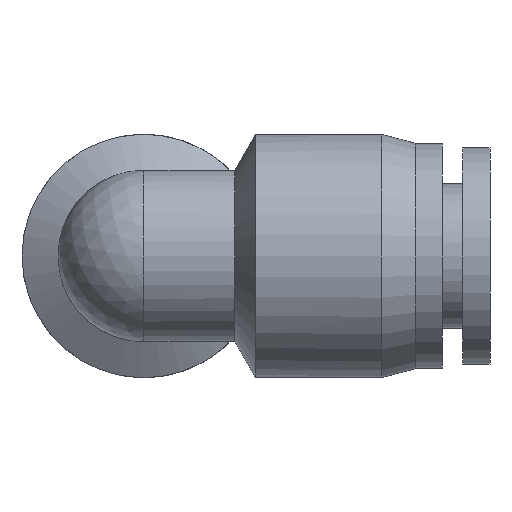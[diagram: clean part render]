
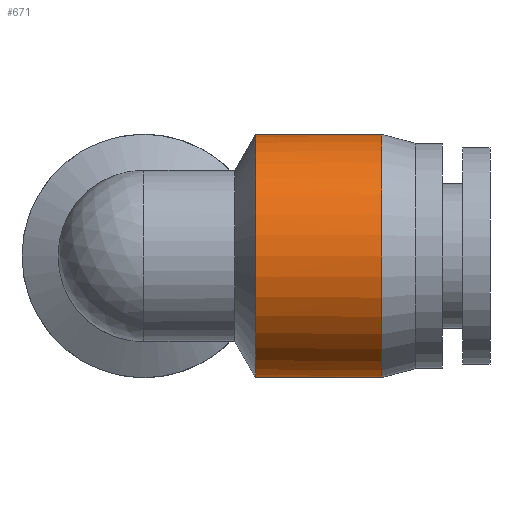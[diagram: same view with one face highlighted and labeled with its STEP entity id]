
A CAD part, left-side view. The second image highlights one B-rep face of the part: STEP entity #671.
In plain terms, the highlighted cylindrical face has radius 6.75 mm (diameter 13.5 mm), a full revolution.
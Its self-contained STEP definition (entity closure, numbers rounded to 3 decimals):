
#399=CARTESIAN_POINT('',(6.676,-6.676,1.0));
#400=VERTEX_POINT('',#399);
#409=CARTESIAN_POINT('',(6.676,-7.467,1.0));
#410=VERTEX_POINT('',#409);
#411=CARTESIAN_POINT('',(6.676,-7.467,1.0));
#412=DIRECTION('',(0.0,1.0,0.0));
#413=VECTOR('',#412,0.791);
#414=LINE('',#411,#413);
#415=EDGE_CURVE('',#410,#400,#414,.T.);
#433=CARTESIAN_POINT('',(6.676,-6.676,-1.0));
#434=VERTEX_POINT('',#433);
#441=CARTESIAN_POINT('',(6.676,-7.467,-1.0));
#442=VERTEX_POINT('',#441);
#449=CARTESIAN_POINT('',(6.676,-6.676,-1.0));
#450=DIRECTION('',(0.0,-1.0,0.0));
#451=VECTOR('',#450,0.791);
#452=LINE('',#449,#451);
#453=EDGE_CURVE('',#434,#442,#452,.T.);
#471=CARTESIAN_POINT('',(0.,-14.142,0.0));
#472=DIRECTION('',(0.707,-0.707,0.0));
#473=DIRECTION('',(0.707,0.707,0.0));
#474=AXIS2_PLACEMENT_3D('',#471,#472,#473);
#475=ELLIPSE('',#474,9.546,6.75);
#476=EDGE_CURVE('',#442,#410,#475,.T.);
#501=CARTESIAN_POINT('',(6.2,-6.2,-2.669));
#502=VERTEX_POINT('',#501);
#503=CARTESIAN_POINT('',(0.0,0.0,0.0));
#504=DIRECTION('',(0.707,0.707,0.0));
#505=DIRECTION('',(0.707,-0.707,0.0));
#506=AXIS2_PLACEMENT_3D('',#503,#504,#505);
#507=ELLIPSE('',#506,9.546,6.75);
#508=EDGE_CURVE('',#434,#502,#507,.T.);
#510=CARTESIAN_POINT('',(6.2,-6.2,2.669));
#511=VERTEX_POINT('',#510);
#519=CARTESIAN_POINT('',(0.0,0.0,0.0));
#520=DIRECTION('',(0.707,0.707,0.0));
#521=DIRECTION('',(0.707,-0.707,0.0));
#522=AXIS2_PLACEMENT_3D('',#519,#520,#521);
#523=ELLIPSE('',#522,9.546,6.75);
#524=EDGE_CURVE('',#511,#400,#523,.T.);
#624=CARTESIAN_POINT('',(0.,-6.2,0.0));
#625=DIRECTION('',(0.0,-1.0,0.0));
#626=DIRECTION('',(1.0,0.0,0.0));
#627=AXIS2_PLACEMENT_3D('',#624,#625,#626);
#628=CIRCLE('',#627,6.75);
#629=EDGE_CURVE('',#511,#502,#628,.T.);
#647=CARTESIAN_POINT('',(0.,-9.7,0.0));
#648=DIRECTION('',(0.,-1.0,0.0));
#649=DIRECTION('',(1.0,0.0,0.0));
#650=AXIS2_PLACEMENT_3D('',#647,#648,#649);
#651=CYLINDRICAL_SURFACE('',#650,6.75);
#652=ORIENTED_EDGE('',*,*,#415,.T.);
#653=ORIENTED_EDGE('',*,*,#524,.F.);
#654=ORIENTED_EDGE('',*,*,#629,.T.);
#655=ORIENTED_EDGE('',*,*,#508,.F.);
#656=ORIENTED_EDGE('',*,*,#453,.T.);
#657=ORIENTED_EDGE('',*,*,#476,.T.);
#658=EDGE_LOOP('',(#652,#653,#654,#655,#656,#657));
#659=FACE_OUTER_BOUND('',#658,.T.);
#660=CARTESIAN_POINT('',(6.75,-13.2,0.0));
#661=VERTEX_POINT('',#660);
#662=CARTESIAN_POINT('',(0.,-13.2,0.0));
#663=DIRECTION('',(0.0,-1.0,0.0));
#664=DIRECTION('',(1.0,0.0,0.0));
#665=AXIS2_PLACEMENT_3D('',#662,#663,#664);
#666=CIRCLE('',#665,6.75);
#667=EDGE_CURVE('',#661,#661,#666,.T.);
#668=ORIENTED_EDGE('',*,*,#667,.F.);
#669=EDGE_LOOP('',(#668));
#670=FACE_BOUND('',#669,.T.);
#671=ADVANCED_FACE('',(#659,#670),#651,.T.);
